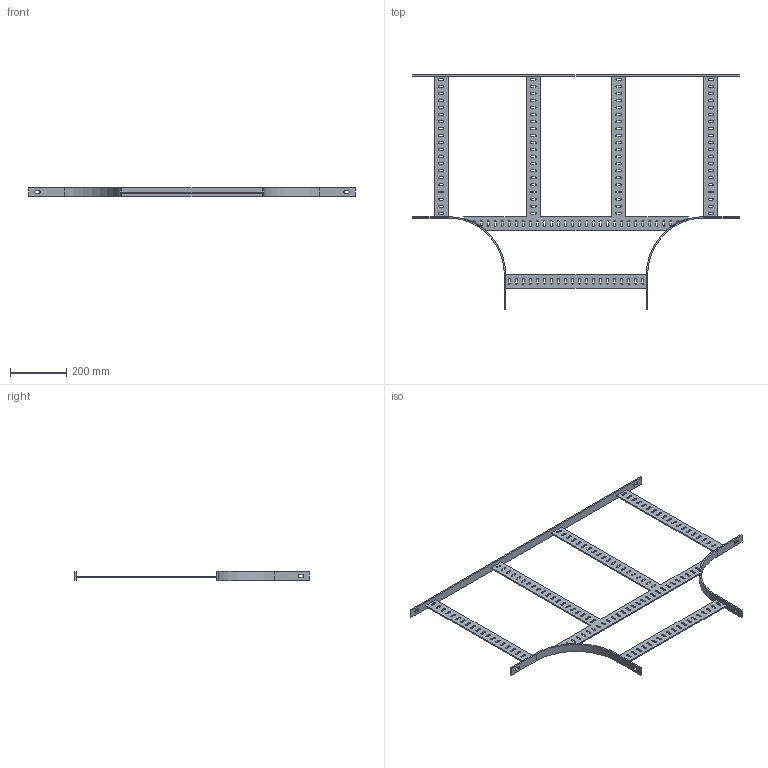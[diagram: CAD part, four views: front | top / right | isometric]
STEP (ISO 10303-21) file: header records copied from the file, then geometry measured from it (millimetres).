
FILE_DESCRIPTION(('Creo Elements/Direct Modeling STEP Export'),'2;1');
FILE_NAME('//pserver/office/EK/ME10-3D/3D-output/SLA 500F.stp','2020-03-10T15:07:24',(''),(''),'PTC Creo Elements/Direct Modeling STEP processor for AP214 (Solid Model)','PTC Creo Elements/Direct Modeling 19.0C 15-Aug-2015 (C) Parametric Technology GmbH','');
FILE_SCHEMA(('AUTOMOTIVE_DESIGN { 1 0 10303 214 1 1 1 1 }'));
Length unit declared in the file: millimetre
Products named in the file (2): SLA_500F
Assembly tree (1 placements, depth 2):
  SLA_500F
    SLA_500F
Bounding box: 1160 x 835 x 30 mm (x, y, z)
Volume: 915397.7 mm3; surface area: 498439.5 mm2
Topology: 1 solids, 1 shells, 594 faces, 1768 edges, 1176 vertices
Faces by surface type: plane 320, cylinder 274
Entity records: 20575 total; most frequent: ORIENTED_EDGE 3536, CARTESIAN_POINT 3528, DIRECTION 3494, EDGE_CURVE 1768, VECTOR 1210, LINE 1210, VERTEX_POINT 1176, AXIS2_PLACEMENT_3D 1142
